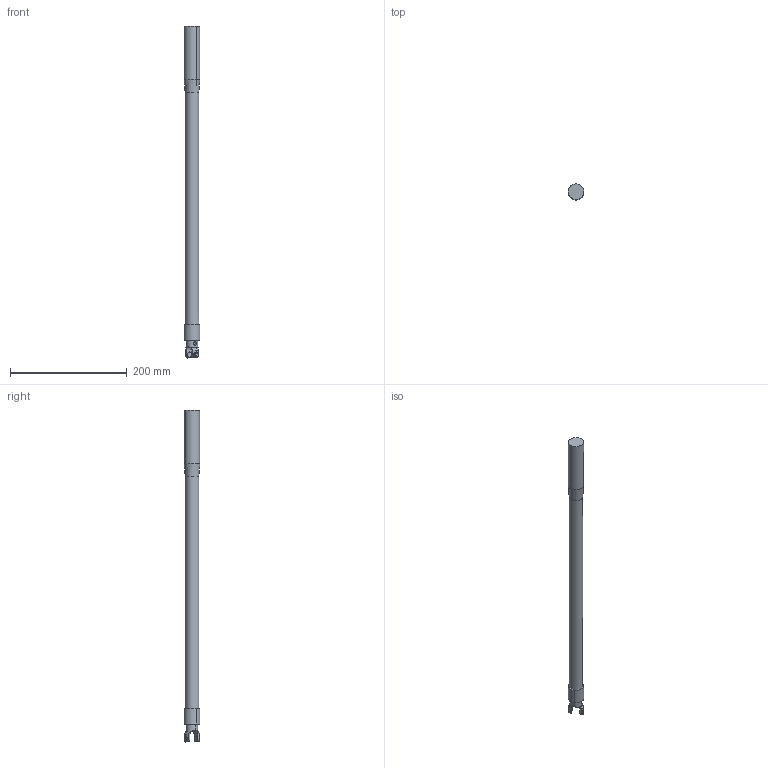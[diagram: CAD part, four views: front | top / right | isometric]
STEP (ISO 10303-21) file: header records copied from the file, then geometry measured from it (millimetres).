
FILE_DESCRIPTION (( 'STEP AP214' ), '1' );
FILE_NAME ('IRB360_X-1130-STD-4D_rev03_ML_CAD.STEP', '2023-12-04T07:57:24', ( '' ), ( '' ), 'SwSTEP 2.0', 'SolidWorks 2022', '' );
FILE_SCHEMA (( 'AUTOMOTIVE_DESIGN' ));
Length unit declared in the file: millimetre
Products named in the file (1): IRB360_X-1130-STD-4D_rev03_ML_CAD
Bounding box: 26.96 x 26.95 x 568.8 mm (x, y, z)
Volume: 263475.7 mm3; surface area: 48277.6 mm2
Topology: 5 solids, 5 shells, 89 faces, 201 edges, 123 vertices
Faces by surface type: cylinder 42, plane 21, torus 16, cone 10
Entity records: 3119 total; most frequent: CARTESIAN_POINT 1060, DIRECTION 431, ORIENTED_EDGE 398, EDGE_CURVE 199, AXIS2_PLACEMENT_3D 186, VERTEX_POINT 123, EDGE_LOOP 100, CIRCLE 96
